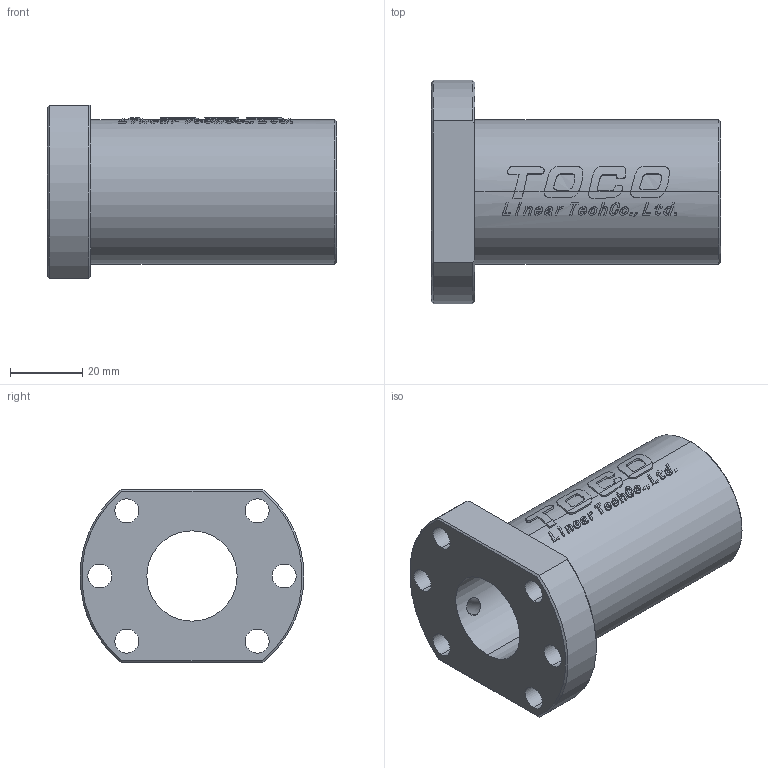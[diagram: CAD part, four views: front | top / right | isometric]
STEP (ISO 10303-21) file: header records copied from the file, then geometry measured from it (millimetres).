
FILE_DESCRIPTION (( 'STEP AP214' ), '1' );
FILE_NAME ('7.3107 STNUR2510T4D.STEP', '2026-03-02T13:57:25', ( '' ), ( '' ), 'SwSTEP 2.0', 'SolidWorks 2025', '' );
FILE_SCHEMA (( 'AUTOMOTIVE_DESIGN' ));
Length unit declared in the file: millimetre
Products named in the file (1): 7.3107 STNUR2510T4D
Bounding box: 80 x 61.8 x 48 mm (x, y, z)
Volume: 75156 mm3; surface area: 22790.2 mm2
Topology: 1 solids, 1 shells, 571 faces, 1618 edges, 1076 vertices
Faces by surface type: bspline 425, plane 86, cylinder 54, cone 6
Entity records: 30949 total; most frequent: CARTESIAN_POINT 19029, ORIENTED_EDGE 3236, EDGE_CURVE 1618, DIRECTION 1091, VERTEX_POINT 1076, B_SPLINE_CURVE_WITH_KNOTS 881, LINE 677, VECTOR 677
